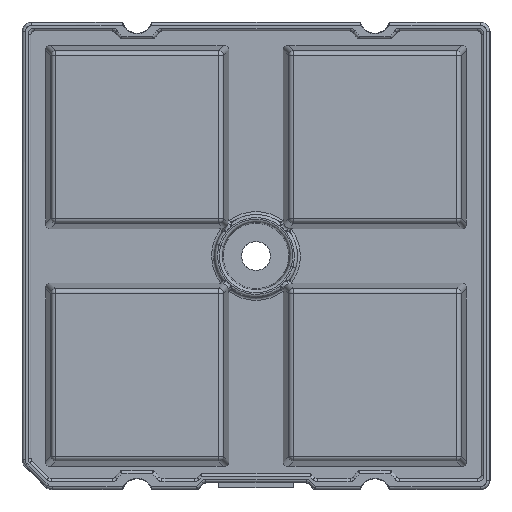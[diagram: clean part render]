
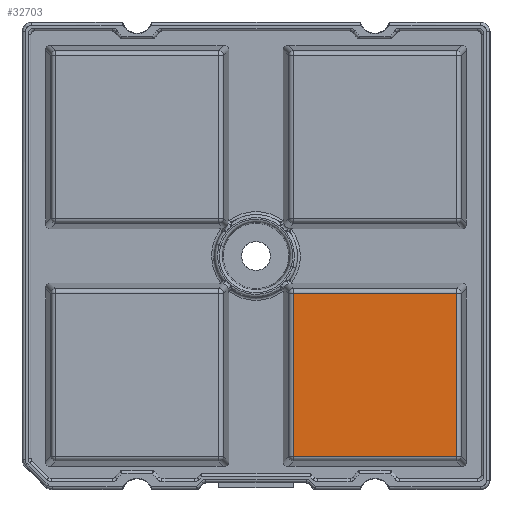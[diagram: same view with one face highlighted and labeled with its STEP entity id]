
A CAD part, top view. The second image highlights one B-rep face of the part: STEP entity #32703.
In plain terms, the highlighted planar face has unit normal (0, 0, 1).
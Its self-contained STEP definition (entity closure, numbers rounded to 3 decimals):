
#31876=CARTESIAN_POINT('Vertex',(16.69,-34.11,7.839)) ;
#31879=CARTESIAN_POINT('Line Origine',(16.69,50.8,7.839)) ;
#31883=CARTESIAN_POINT('Vertex',(16.69,-16.69,7.839)) ;
#31943=CARTESIAN_POINT('Line Origine',(0.,-16.69,7.839)) ;
#31947=CARTESIAN_POINT('Vertex',(34.11,-16.69,7.839)) ;
#32680=CARTESIAN_POINT('Axis2P3D Location',(0.,0.,7.839)) ;
#32685=CARTESIAN_POINT('Line Origine',(34.11,-25.4,7.839)) ;
#32689=CARTESIAN_POINT('Vertex',(34.11,-34.11,7.839)) ;
#32692=CARTESIAN_POINT('Line Origine',(25.4,-34.11,7.839)) ;
#31880=DIRECTION('Vector Direction',(0.,1.,0.)) ;
#31944=DIRECTION('Vector Direction',(1.,0.,0.)) ;
#32681=DIRECTION('Axis2P3D Direction',(0.,0.,1.)) ;
#32682=DIRECTION('Axis2P3D XDirection',(1.,-0.,0.)) ;
#32686=DIRECTION('Vector Direction',(0.,1.,0.)) ;
#32693=DIRECTION('Vector Direction',(-1.,0.,0.)) ;
#32683=AXIS2_PLACEMENT_3D('Plane Axis2P3D',#32680,#32681,#32682) ;
#32698=ORIENTED_EDGE('',*,*,#32691,.T.) ;
#32699=ORIENTED_EDGE('',*,*,#31949,.F.) ;
#32700=ORIENTED_EDGE('',*,*,#31885,.T.) ;
#32701=ORIENTED_EDGE('',*,*,#32696,.T.) ;
#31881=VECTOR('Line Direction',#31880,1.) ;
#31945=VECTOR('Line Direction',#31944,1.) ;
#32687=VECTOR('Line Direction',#32686,1.) ;
#32694=VECTOR('Line Direction',#32693,1.) ;
#32703=ADVANCED_FACE('Body.2',(#32702),#32684,.T.) ;
#31885=EDGE_CURVE('',#31884,#31877,#31882,.F.) ;
#31949=EDGE_CURVE('',#31884,#31948,#31946,.T.) ;
#32691=EDGE_CURVE('',#32690,#31948,#32688,.T.) ;
#32696=EDGE_CURVE('',#31877,#32690,#32695,.F.) ;
#32697=EDGE_LOOP('',(#32698,#32699,#32700,#32701)) ;
#32702=FACE_OUTER_BOUND('',#32697,.T.) ;
#31882=LINE('Line',#31879,#31881) ;
#31946=LINE('Line',#31943,#31945) ;
#32688=LINE('Line',#32685,#32687) ;
#32695=LINE('Line',#32692,#32694) ;
#32684=PLANE('Plane',#32683) ;
#31877=VERTEX_POINT('',#31876) ;
#31884=VERTEX_POINT('',#31883) ;
#31948=VERTEX_POINT('',#31947) ;
#32690=VERTEX_POINT('',#32689) ;
